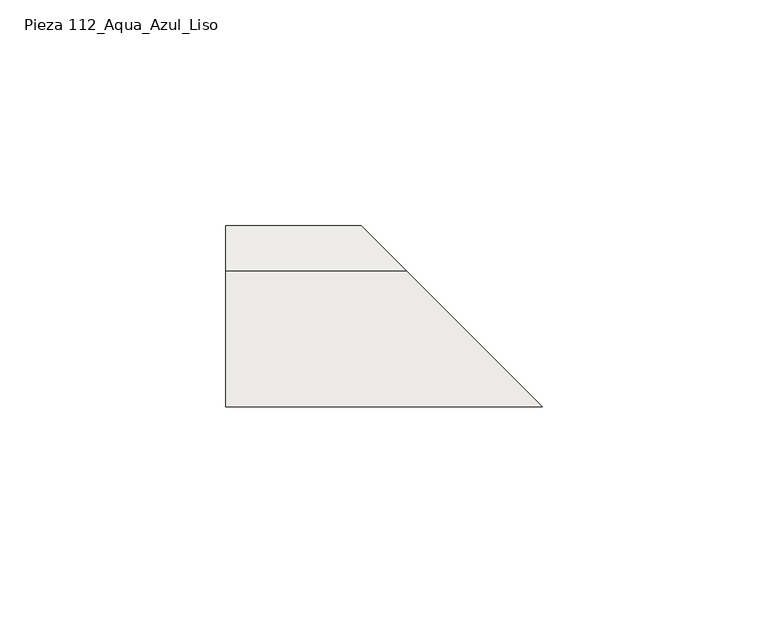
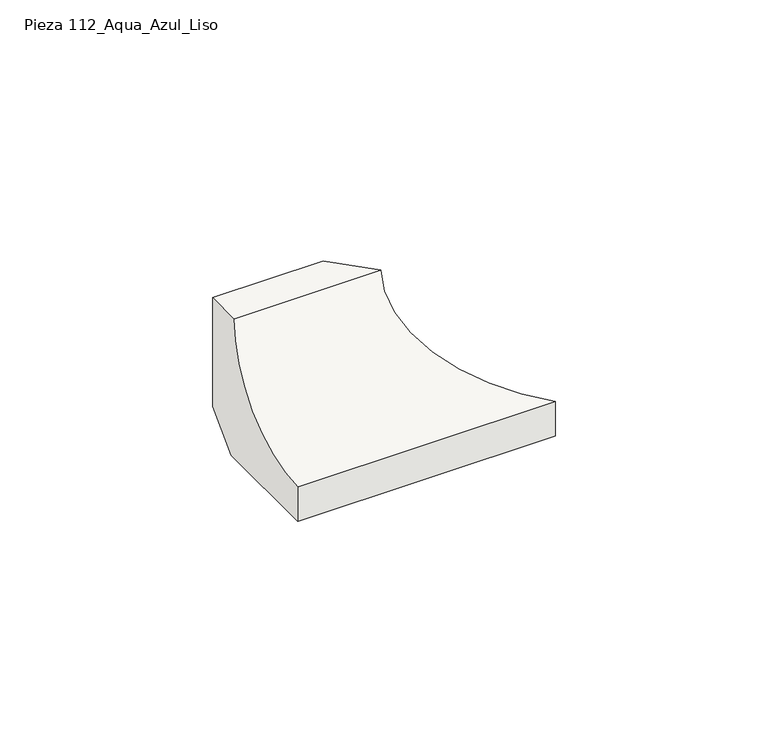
"""IFC4 building model written with IfcOpenShell, lengths in millimetres: slab geometry, ROSA GRES_112 (corte) : Pieza 112_Aqua_Azul_Liso."""

import ifcopenshell
import ifcopenshell.guid

model = None  # the IFC model being written
_history = None  # IfcOwnerHistory: only IFC2X3 demands one
_inside = {}  # id of a spatial element -> (the spatial element, [elements in it])
_under = {}  # id of a project, library or spatial element -> (it, [spatial elements below it])
_declared = {}  # id of a project -> (the project, [libraries it declares])
_typed = {}  # id of a type object -> (the type object, [elements of that type])
_made_of = {}  # id of a material, layer set ... -> (it, [elements and type objects made of it])


def new_model(schema):
    """Start an empty IFC model of exactly this schema.

    Asked for "IFC4X3", IfcOpenShell would pick the latest addendum, in which some entities
    have other attributes; the version numbers below select the first issue.
    IFC2X3 requires an IfcOwnerHistory on every rooted entity: one is made here for all.
    """
    global model, _history
    if schema == "IFC4X3":
        model = ifcopenshell.file(schema_version=(4, 3, 0, 0))
    else:
        model = ifcopenshell.file(schema=schema)
    _inside.clear()
    _under.clear()
    _declared.clear()
    _typed.clear()
    _made_of.clear()
    _history = None
    if model.schema == "IFC2X3":
        org = make("IfcOrganization", Name="unknown")
        user = make(
            "IfcPersonAndOrganization",
            ThePerson=make("IfcPerson", FamilyName="unknown"),
            TheOrganization=org,
        )
        app = make(
            "IfcApplication",
            ApplicationDeveloper=org,
            Version="unknown",
            ApplicationFullName="unknown",
            ApplicationIdentifier="unknown",
        )
        _history = make(
            "IfcOwnerHistory",
            OwningUser=user,
            OwningApplication=app,
            ChangeAction="ADDED",
            CreationDate=0,
        )
    return model


def make(cls, **values):
    """One entity of the class cls with the attributes given. An attribute that is None is left unset."""
    return model.create_entity(
        cls, **{name: value for name, value in values.items() if value is not None}
    )


def rooted(cls, **values):
    """An entity with a GlobalId (a new one), such as an element, a storey or a relation."""
    return make(cls, GlobalId=ifcopenshell.guid.new(), OwnerHistory=_history, **values)


def si_unit(unit_type, name, prefix=None):
    """IfcSIUnit, for example si_unit("LENGTHUNIT", "METRE", prefix="MILLI")."""
    return make("IfcSIUnit", UnitType=unit_type, Prefix=prefix, Name=name)


def assignment(units):
    """IfcUnitAssignment: the units of a project."""
    return None if units is None else make("IfcUnitAssignment", Units=units)


def point(xyz):
    """IfcCartesianPoint."""
    return None if xyz is None else make("IfcCartesianPoint", Coordinates=xyz)


def direction(xyz):
    """IfcDirection."""
    return None if xyz is None else make("IfcDirection", DirectionRatios=xyz)


def frame(location, z_axis=None, x_axis=None):
    """IfcAxis2Placement3D, a coordinate frame: its origin and axes. An axis left out is left unset."""
    return make(
        "IfcAxis2Placement3D",
        Location=point(location),
        Axis=direction(z_axis),
        RefDirection=direction(x_axis),
    )


def origin():
    """The frame at (0, 0, 0) with its axes left unset."""
    return frame((0.0, 0.0, 0.0))


def place(relative_to, where):
    """IfcLocalPlacement: puts the frame where relative to a parent placement (None: the world)."""
    return make(
        "IfcLocalPlacement", PlacementRelTo=relative_to, RelativePlacement=where
    )


def context(
    kind, dimensions, precision=None, world=None, true_north=None, identifier=None
):
    """IfcGeometricRepresentationContext, for example the 3D "Model" context."""
    return make(
        "IfcGeometricRepresentationContext",
        ContextIdentifier=identifier,
        ContextType=kind,
        CoordinateSpaceDimension=dimensions,
        Precision=precision,
        WorldCoordinateSystem=world,
        TrueNorth=true_north,
    )


def project(units=None, contexts=None):
    """IfcProject with its units and contexts."""
    return rooted(
        "IfcProject",
        Name="project",
        RepresentationContexts=contexts,
        UnitsInContext=assignment(units),
    )


def spatial(cls, under=None, at=None, **own):
    """A site, building, storey or space (cls), placed at a placement, below another one or the project."""
    s = rooted(cls, ObjectPlacement=at, **own)
    if under is not None:
        _under.setdefault(under.id(), (under, []))[1].append(s)
    return s


def polyline(points):
    """IfcPolyline through the points."""
    return make("IfcPolyline", Points=[point(p) for p in points])


def circle_curve(where, radius):
    """IfcCircle in the frame where."""
    return make("IfcCircle", Position=where, Radius=radius)


def ellipse_curve(where, semi_axis1, semi_axis2):
    """IfcEllipse in the frame where."""
    return make(
        "IfcEllipse", Position=where, SemiAxis1=semi_axis1, SemiAxis2=semi_axis2
    )


def shape(context_of_items, identifier, shape_type, items):
    """IfcShapeRepresentation: the items that make up one representation, for example the "Body"."""
    return make(
        "IfcShapeRepresentation",
        ContextOfItems=context_of_items,
        RepresentationIdentifier=identifier,
        RepresentationType=shape_type,
        Items=items,
    )


def source(mapping_origin, context_of_items, identifier, shape_type, items):
    """IfcRepresentationMap: a shape defined once, which mapped items show again and again."""
    return make(
        "IfcRepresentationMap",
        MappingOrigin=mapping_origin,
        MappedRepresentation=shape(context_of_items, identifier, shape_type, items),
    )


def transform(
    local_origin,
    x_axis=None,
    y_axis=None,
    z_axis=None,
    scale=None,
    scale2=None,
    scale3=None,
    uniform=True,
):
    """IfcCartesianTransformationOperator3D, or its non-uniform kind. x_axis, y_axis, z_axis: its Axis1, 2, 3."""
    if uniform:
        return make(
            "IfcCartesianTransformationOperator3D",
            Axis1=direction(x_axis),
            Axis2=direction(y_axis),
            LocalOrigin=point(local_origin),
            Scale=scale,
            Axis3=direction(z_axis),
        )
    return make(
        "IfcCartesianTransformationOperator3DnonUniform",
        Axis1=direction(x_axis),
        Axis2=direction(y_axis),
        LocalOrigin=point(local_origin),
        Scale=scale,
        Axis3=direction(z_axis),
        Scale2=scale2,
        Scale3=scale3,
    )


def mapped(mapping_source, mapping_target):
    """IfcMappedItem: shows the shape of a source again, moved by a transform."""
    return make(
        "IfcMappedItem", MappingSource=mapping_source, MappingTarget=mapping_target
    )


def made_of(thing, what):
    """Note that an element or type object is made of a material, layer set ...; save() writes the relation."""
    if what is not None:
        _made_of.setdefault(what.id(), (what, []))[1].append(thing)
    return thing


def element(
    cls,
    number,
    at=None,
    inside=None,
    cuts=None,
    type_object=None,
    material=None,
    context=None,
    identifier="Body",
    shape_type=None,
    held_by="IfcProductDefinitionShape",
    body=None,
    shapes=None,
    **own,
):
    """One element of the class cls, such as IfcWall. Its Tag is "e" and its number.

    at: its placement. inside: the storey or other place that contains it. cuts: it is an
    opening in that element (IfcRelVoidsElement). A single representation is given by context,
    identifier, shape_type and body (its items); several are given by shapes. held_by: the class
    of the entity that holds the representations. save() writes the other relations.
    """
    e = rooted(cls, Tag="e%d" % number, ObjectPlacement=at, **own)
    if body is not None:
        shapes = [shape(context, identifier, shape_type, body)]
    if shapes is not None:
        e.Representation = make(held_by, Representations=shapes)
    if inside is not None:
        _inside.setdefault(inside.id(), (inside, []))[1].append(e)
    if cuts is not None:
        rooted(
            "IfcRelVoidsElement", RelatingBuildingElement=cuts, RelatedOpeningElement=e
        )
    if type_object is not None:
        _typed.setdefault(type_object.id(), (type_object, []))[1].append(e)
    return made_of(e, material)


def aggregate(whole, parts):
    """IfcRelAggregates: a whole, such as a stair, and the parts it consists of."""
    return rooted("IfcRelAggregates", RelatingObject=whole, RelatedObjects=parts)


def save(model, path):
    """Write the relations noted so far, then the file.

    IfcRelAggregates (storeys below a building ...), IfcRelContainedInSpatialStructure (elements
    in a storey), IfcRelDefinesByType, IfcRelAssociatesMaterial and IfcRelDeclares: one each for
    every whole, place, type object, material and project.
    """
    for whole, parts in _under.values():
        aggregate(whole, parts)
    for where, things in _inside.values():
        rooted(
            "IfcRelContainedInSpatialStructure",
            RelatedElements=things,
            RelatingStructure=where,
        )
    for kind, things in _typed.values():
        rooted("IfcRelDefinesByType", RelatedObjects=things, RelatingType=kind)
    for what, things in _made_of.values():
        rooted("IfcRelAssociatesMaterial", RelatedObjects=things, RelatingMaterial=what)
    for by, libraries in _declared.values():
        rooted("IfcRelDeclares", RelatingContext=by, RelatedDefinitions=libraries)
    model.write(path)


def plane_surface(at):
    """IfcPlane: the flat surface through the origin of the frame at, square to its z axis."""
    return make("IfcPlane", Position=at)


def revolved_surface(curve, axis_point, axis_direction):
    """IfcSurfaceOfRevolution: the curve turned about the line through axis_point along axis_direction."""
    return make(
        "IfcSurfaceOfRevolution",
        SweptCurve=make("IfcArbitraryOpenProfileDef", ProfileType="CURVE", Curve=curve),
        AxisPosition=make("IfcAxis1Placement", Location=point(axis_point), Axis=direction(axis_direction)),
    )


def advanced_brep(points, edges, surfaces, faces):
    """IfcAdvancedBrep: a solid bounded by faces that lie on surfaces and meet in shared edges.

    An edge is (start, end): straight between two places in points (the first is 0);
    or (start, end, curve); or (start, end, curve, False) where it runs against its curve.
    A face is (place in surfaces, loops), or (place, loops, False) where it looks against
    its surface's normal. A loop lists edges by number (the first is 1), with a minus sign
    where the edge is run from its end to its start. The first loop is the outer one.
    """
    corners = [point(p) for p in points]
    vertices = [make("IfcVertexPoint", VertexGeometry=c) for c in corners]
    made = []
    for start, end, *more in edges:
        made.append(
            make(
                "IfcEdgeCurve",
                EdgeStart=vertices[start],
                EdgeEnd=vertices[end],
                EdgeGeometry=more[0] if more else make("IfcPolyline", Points=[corners[start], corners[end]]),
                SameSense=more[1] if len(more) > 1 else True,
            )
        )
    hull = []
    for where, loops, *sense in faces:
        bounds = []
        for j, loop in enumerate(loops):
            ring = [make("IfcOrientedEdge", EdgeElement=made[abs(k) - 1], Orientation=k > 0) for k in loop]
            bounds.append(
                make(
                    "IfcFaceOuterBound" if j == 0 else "IfcFaceBound",
                    Bound=make("IfcEdgeLoop", EdgeList=ring),
                    Orientation=True,
                )
            )
        hull.append(make("IfcAdvancedFace", Bounds=bounds, FaceSurface=surfaces[where], SameSense=sense[0] if sense else True))
    return make("IfcAdvancedBrep", Outer=make("IfcClosedShell", CfsFaces=hull))


def pieza_112_aqua_azul_liso_7653bbea(model_context):
    return source(origin(), model_context, "Body", "AdvancedBrep", [
        advanced_brep(
        [(0.0, 0.0, 8.7114978), (0.0, -8.7114978, 0.0), (0.0, -40.0, 0.0), (0.0, -40.0, 9.9734114), (0.0, -9.9734114, 40.0), (0.0, 0.0, 40.0), (30.0, 0.0, 40.0), (30.0, 0.0, 8.7114978), (39.9734114, -9.9734114, 40.0), (70.0, -40.0, 9.9734114), (70.0, -40.0, 0.0), (38.7114978, -8.7114978, 0.0)],
        [
            (0, 1),
            (1, 2),
            (2, 3),
            (3, 4, circle_curve(frame((0.0, -39.9955547, 39.9955547), z_axis=(1.0, 0.0, 0.0), x_axis=(0.0, -1.0, 0.0)), 30.0221435)),
            (4, 5),
            (5, 0),
            (5, 6),
            (6, 7),
            (7, 0),
            (4, 8),
            (8, 6),
            (3, 9),
            (9, 8, ellipse_curve(frame((69.9955547, -39.9955547, 39.9955547), z_axis=(0.7071067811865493, 0.7071067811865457, 0.0), x_axis=(0.7071067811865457, -0.7071067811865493, 0.0)), 42.4577226, 30.0221435)),
            (2, 10),
            (10, 9),
            (1, 11),
            (11, 10),
            (7, 11),
        ],
        [
            plane_surface(frame((0.0, 0.0, 0.0), z_axis=(-1.0, 0.0, 0.0), x_axis=(0.0, 0.0, 1.0))),
            plane_surface(frame((0.0, 0.0, 8.7114978), z_axis=(0.0, 1.0, 0.0), x_axis=(1.0, 0.0, 0.0))),
            plane_surface(frame((0.0, 0.0, 40.0), z_axis=(0.0, 0.0, 1.0), x_axis=(1.0, 0.0, 0.0))),
            revolved_surface(polyline([(100.01769826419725, -70.0176982, 39.9955547), (0.0, -70.0176982, 39.9955547)]), (0.0, -39.9955547, 39.9955547), (1.0, 0.0, 0.0)),
            plane_surface(frame((0.0, -40.0, 9.9734114), z_axis=(0.0, -1.0, 0.0), x_axis=(1.0, 0.0, 0.0))),
            plane_surface(frame((0.0, -40.0, 0.0), z_axis=(0.0, 0.0, -1.0), x_axis=(1.0, 0.0, 0.0))),
            plane_surface(frame((0.0, -8.7114978, 0.0), z_axis=(0.0, 0.7071067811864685, -0.7071067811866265), x_axis=(1.0, 0.0, 0.0))),
            plane_surface(frame((70.5, -40.5, 104.9871832), z_axis=(0.7071067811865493, 0.7071067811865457, 0.0), x_axis=(0.0, 0.0, -1.0))),
        ],
        [
            (0, [[1, 2, 3, 4, 5, 6]]),
            (1, [[7, 8, 9, -6]]),
            (2, [[10, 11, -7, -5]]),
            (3, [[12, 13, -10, -4]]),
            (4, [[14, 15, -12, -3]]),
            (5, [[16, 17, -14, -2]]),
            (6, [[-9, 18, -16, -1]]),
            (7, [[-11, -13, -15, -17, -18, -8]]),
        ],
    ),
    ])


if __name__ == "__main__":
    model = new_model("IFC4")
    model_context = context("Model", 3, world=origin())
    ifc_project = project(units=[si_unit("LENGTHUNIT", "METRE", prefix="MILLI")], contexts=[model_context])
    site = spatial("IfcSite", under=ifc_project)
    building = spatial("IfcBuilding", under=site)
    placement = place(None, origin())
    pieza_112_aqua_azul_liso_shape = pieza_112_aqua_azul_liso_7653bbea(model_context)
    element("IfcSlab", 1, ObjectType="ROSA GRES_112 (corte) : Pieza 112_Aqua_Azul_Liso", at=placement, inside=building, context=model_context, shape_type="MappedRepresentation", body=[
        mapped(pieza_112_aqua_azul_liso_shape, transform((0.0, 0.0, 0.0), x_axis=(1.0, 0.0, 0.0), y_axis=(0.0, 1.0, 0.0), z_axis=(0.0, 0.0, 1.0))),
    ])
    save(model, "model.ifc")
